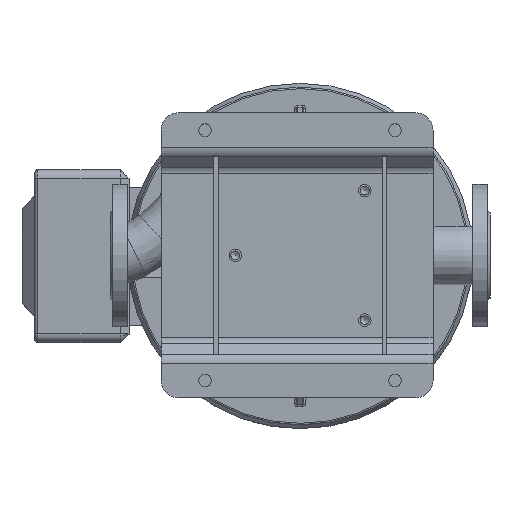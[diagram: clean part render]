
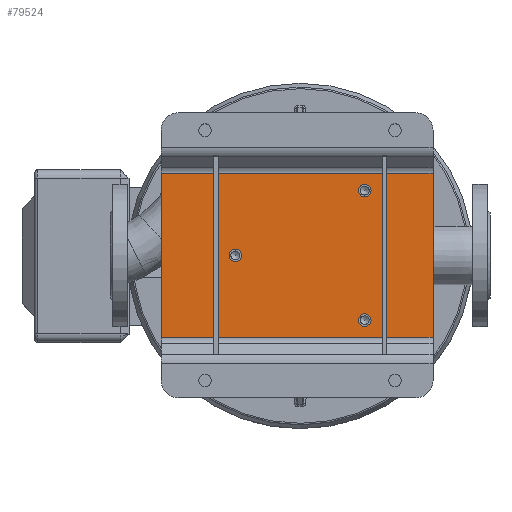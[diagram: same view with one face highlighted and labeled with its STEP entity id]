
A CAD part, top view. The second image highlights one B-rep face of the part: STEP entity #79524.
In plain terms, the highlighted planar face has unit normal (0, 0, 1) as drawn and (0, -1, 0) by its records, which use the part's own axes.
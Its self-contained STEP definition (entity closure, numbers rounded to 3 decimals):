
#2133 = CARTESIAN_POINT ( 'NONE',  ( 0., -5., -82.25 ) ) ;
#2663 = CARTESIAN_POINT ( 'NONE',  ( 75., -5., 75. ) ) ;
#3558 = CARTESIAN_POINT ( 'NONE',  ( -95., -5., -161. ) ) ;
#5014 = VERTEX_POINT ( 'NONE', #70686 ) ;
#5627 = ORIENTED_EDGE ( 'NONE', *, *, #23682, .F. ) ;
#6620 = EDGE_CURVE ( 'NONE', #7151, #7151, #57960, .T. ) ;
#7151 = VERTEX_POINT ( 'NONE', #34129 ) ;
#7886 = AXIS2_PLACEMENT_3D ( 'NONE', #20832, #59804, #26191 ) ;
#8565 = EDGE_LOOP ( 'NONE', ( #80260, #56893, #34605, #63887 ) ) ;
#9292 = CARTESIAN_POINT ( 'NONE',  ( -75., -5., 75. ) ) ;
#11813 = CARTESIAN_POINT ( 'NONE',  ( 95., -5., 154. ) ) ;
#11875 = ORIENTED_EDGE ( 'NONE', *, *, #59931, .F. ) ;
#13167 = EDGE_CURVE ( 'NONE', #53689, #68661, #21811, .T. ) ;
#15739 = AXIS2_PLACEMENT_3D ( 'NONE', #53385, #46347, #33492 ) ;
#20832 = CARTESIAN_POINT ( 'NONE',  ( 0., -5., -75. ) ) ;
#21811 = LINE ( 'NONE', #41327, #52703 ) ;
#22338 = CARTESIAN_POINT ( 'NONE',  ( 95., -5., 154. ) ) ;
#22437 = VECTOR ( 'NONE', #83650, 1000. ) ;
#23682 = EDGE_CURVE ( 'NONE', #51308, #51308, #70694, .T. ) ;
#26191 = DIRECTION ( 'NONE',  ( 0., 0., -1. ) ) ;
#26277 = CIRCLE ( 'NONE', #7886, 7.25 ) ;
#26524 = LINE ( 'NONE', #66818, #72174 ) ;
#33492 = DIRECTION ( 'NONE',  ( 0., 0., -1. ) ) ;
#34129 = CARTESIAN_POINT ( 'NONE',  ( 75., -5., 67.75 ) ) ;
#34605 = ORIENTED_EDGE ( 'NONE', *, *, #79007, .F. ) ;
#34685 = DIRECTION ( 'NONE',  ( 1., 0., 0. ) ) ;
#34889 = VERTEX_POINT ( 'NONE', #2133 ) ;
#36304 = DIRECTION ( 'NONE',  ( 0., -1., 0. ) ) ;
#36749 = LINE ( 'NONE', #3558, #22437 ) ;
#37846 = LINE ( 'NONE', #22338, #42305 ) ;
#38035 = DIRECTION ( 'NONE',  ( 0., 0., -1. ) ) ;
#38215 = AXIS2_PLACEMENT_3D ( 'NONE', #2663, #77836, #38035 ) ;
#39259 = FACE_OUTER_BOUND ( 'NONE', #8565, .T. ) ;
#40130 = FACE_BOUND ( 'NONE', #52665, .T. ) ;
#41046 = EDGE_CURVE ( 'NONE', #5014, #84581, #36749, .T. ) ;
#41327 = CARTESIAN_POINT ( 'NONE',  ( -95., -5., 154. ) ) ;
#42305 = VECTOR ( 'NONE', #49773, 1000. ) ;
#45144 = CARTESIAN_POINT ( 'NONE',  ( -95., -5., -161. ) ) ;
#46347 = DIRECTION ( 'NONE',  ( 0., -1., 0. ) ) ;
#47842 = DIRECTION ( 'NONE',  ( 0., 0., -1. ) ) ;
#49773 = DIRECTION ( 'NONE',  ( 0., 0., -1. ) ) ;
#51308 = VERTEX_POINT ( 'NONE', #65062 ) ;
#52323 = CARTESIAN_POINT ( 'NONE',  ( -95., -5., 154. ) ) ;
#52665 = EDGE_LOOP ( 'NONE', ( #52763 ) ) ;
#52703 = VECTOR ( 'NONE', #34685, 1000. ) ;
#52763 = ORIENTED_EDGE ( 'NONE', *, *, #6620, .F. ) ;
#53385 = CARTESIAN_POINT ( 'NONE',  ( 0., -5., 0. ) ) ;
#53689 = VERTEX_POINT ( 'NONE', #52323 ) ;
#53814 = PLANE ( 'NONE',  #15739 ) ;
#56893 = ORIENTED_EDGE ( 'NONE', *, *, #13167, .F. ) ;
#57960 = CIRCLE ( 'NONE', #38215, 7.25 ) ;
#59591 = FACE_BOUND ( 'NONE', #82920, .T. ) ;
#59804 = DIRECTION ( 'NONE',  ( 0., -1., 0. ) ) ;
#59931 = EDGE_CURVE ( 'NONE', #34889, #34889, #26277, .T. ) ;
#63887 = ORIENTED_EDGE ( 'NONE', *, *, #41046, .F. ) ;
#65062 = CARTESIAN_POINT ( 'NONE',  ( -75., -5., 67.75 ) ) ;
#66713 = FACE_BOUND ( 'NONE', #84792, .T. ) ;
#66818 = CARTESIAN_POINT ( 'NONE',  ( -95., -5., 154. ) ) ;
#68661 = VERTEX_POINT ( 'NONE', #11813 ) ;
#70686 = CARTESIAN_POINT ( 'NONE',  ( 95., -5., -161. ) ) ;
#70694 = CIRCLE ( 'NONE', #74928, 7.25 ) ;
#71287 = EDGE_CURVE ( 'NONE', #68661, #5014, #37846, .T. ) ;
#72174 = VECTOR ( 'NONE', #87180, 1000. ) ;
#74928 = AXIS2_PLACEMENT_3D ( 'NONE', #9292, #36304, #47842 ) ;
#77836 = DIRECTION ( 'NONE',  ( 0., -1., 0. ) ) ;
#79007 = EDGE_CURVE ( 'NONE', #84581, #53689, #26524, .T. ) ;
#79524 = ADVANCED_FACE ( 'NONE', ( #40130, #66713, #59591, #39259 ), #53814, .T. ) ;
#80260 = ORIENTED_EDGE ( 'NONE', *, *, #71287, .F. ) ;
#82920 = EDGE_LOOP ( 'NONE', ( #5627 ) ) ;
#83650 = DIRECTION ( 'NONE',  ( -1., 0., 0. ) ) ;
#84581 = VERTEX_POINT ( 'NONE', #45144 ) ;
#84792 = EDGE_LOOP ( 'NONE', ( #11875 ) ) ;
#87180 = DIRECTION ( 'NONE',  ( 0., 0., 1. ) ) ;
